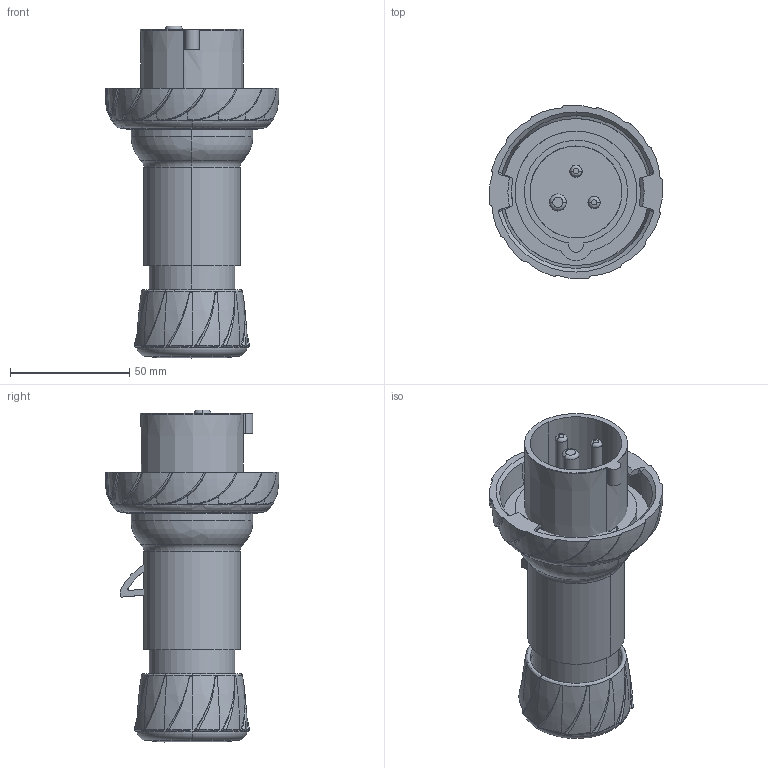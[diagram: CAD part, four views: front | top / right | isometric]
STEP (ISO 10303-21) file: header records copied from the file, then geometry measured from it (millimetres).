
FILE_DESCRIPTION((''),'2;1');
FILE_NAME('PKE16M713_3D-SIMPLIFIED_ASM','2022-12-06T15:55:48',('gines.fernandez'),(''),'CREO PARAMETRIC BY PTC INC, 2018260','CREO PARAMETRIC BY PTC INC, 2018260','');
FILE_SCHEMA(('CONFIG_CONTROL_DESIGN'));
Products named in the file (14): PRT0003; PRT0004; PRT0005; ASM001_ASM; PRT002_ASM; PRT0006; PRT07; PRT08; PRT09; ASM002_ASM; PRT010; PRT011; PRT012; PKE16M713_3D-SIMPLIFIED_ASM
Assembly tree (13 placements, depth 4):
  PKE16M713_3D-SIMPLIFIED_ASM
    PRT002_ASM
      ASM001_ASM
        PRT0003
        PRT0004
        PRT0005
    PRT0006
    PRT07
    ASM002_ASM
      PRT08
      PRT09
    PRT010
    PRT011
    PRT012
Bounding box: 72.78 x 72.78 x 139.02 mm (x, y, z)
Volume: 110124.4 mm3; surface area: 73802.3 mm2
Topology: 10 solids, 10 shells, 506 faces, 1331 edges, 859 vertices
Faces by surface type: cylinder 163, bspline 148, plane 103, torus 69, cone 19, sphere 4
Entity records: 25811 total; most frequent: CARTESIAN_POINT 14129, ORIENTED_EDGE 2654, DIRECTION 2110, EDGE_CURVE 1327, AXIS2_PLACEMENT_3D 922, VERTEX_POINT 859, EDGE_LOOP 538, CIRCLE 531
